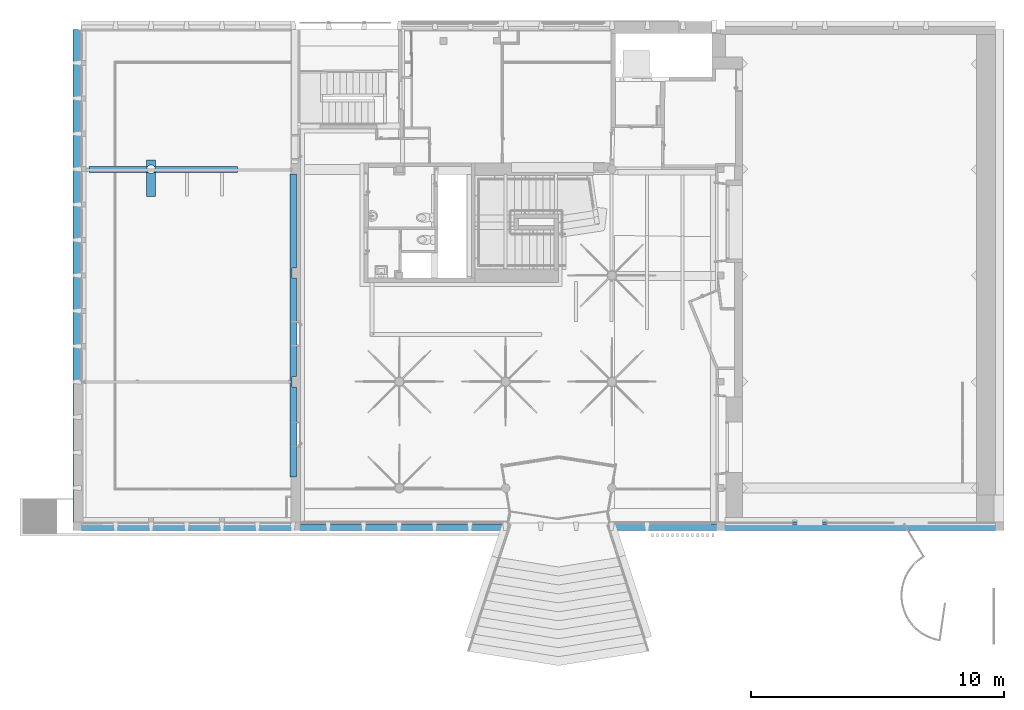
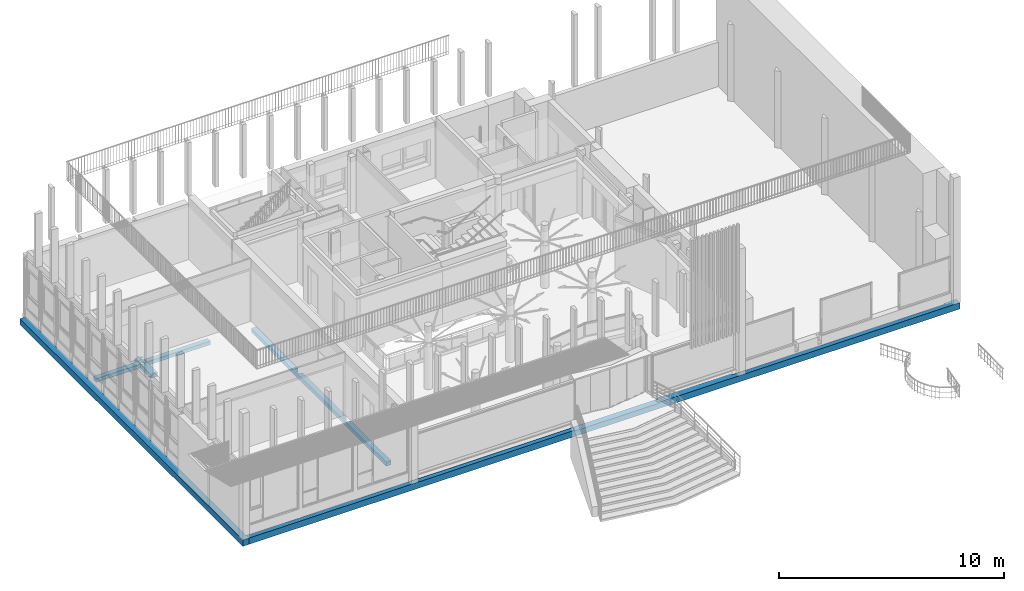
# One storey, part 25 of 65: 5 beams.
"""IFC4 building model written with IfcOpenShell, lengths in metres."""

from ifc_helpers import new_model, entity, si_unit, converted_unit, derived_unit, direction, frame, origin, place, context, subcontext, project, spatial, polygons, source, transform, mapped, material, type_object, type_shapes, element, save


model = new_model("IFC4")

# Units and contexts
model_context = context("Model", 3, precision=1e-05, world=origin(), true_north=direction((6.12303176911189e-17, 1.0)))
body_context = subcontext(model_context, "Body", "Model", "MODEL_VIEW")
ifc_project = project(units=[si_unit("LENGTHUNIT", "METRE"), si_unit("AREAUNIT", "SQUARE_METRE"), si_unit("VOLUMEUNIT", "CUBIC_METRE"), converted_unit("PLANEANGLEUNIT", "DEGREE", entity("IfcRatioMeasure", 0.0174532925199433), si_unit("PLANEANGLEUNIT", "RADIAN"), dimensions=[0, 0, 0, 0, 0, 0, 0]), si_unit("MASSUNIT", "GRAM", prefix="KILO"), derived_unit("MASSDENSITYUNIT", [(si_unit("MASSUNIT", "GRAM", prefix="KILO"), 1), (si_unit("LENGTHUNIT", "METRE"), -3)]), derived_unit("MOMENTOFINERTIAUNIT", [(si_unit("LENGTHUNIT", "METRE"), 4)]), si_unit("TIMEUNIT", "SECOND"), si_unit("FREQUENCYUNIT", "HERTZ"), si_unit("THERMODYNAMICTEMPERATUREUNIT", "DEGREE_CELSIUS"), derived_unit("THERMALTRANSMITTANCEUNIT", [(si_unit("MASSUNIT", "GRAM", prefix="KILO"), 1), (si_unit("THERMODYNAMICTEMPERATUREUNIT", "KELVIN"), -1), (si_unit("TIMEUNIT", "SECOND"), -3)]), derived_unit("VOLUMETRICFLOWRATEUNIT", [(si_unit("LENGTHUNIT", "METRE"), 3), (si_unit("TIMEUNIT", "SECOND"), -1)]), si_unit("ELECTRICCURRENTUNIT", "AMPERE"), si_unit("ELECTRICVOLTAGEUNIT", "VOLT"), si_unit("POWERUNIT", "WATT"), si_unit("FORCEUNIT", "NEWTON", prefix="KILO"), si_unit("ILLUMINANCEUNIT", "LUX"), si_unit("LUMINOUSFLUXUNIT", "LUMEN"), si_unit("LUMINOUSINTENSITYUNIT", "CANDELA"), derived_unit("USERDEFINED", [(si_unit("MASSUNIT", "GRAM", prefix="KILO"), -1), (si_unit("LENGTHUNIT", "METRE"), -2), (si_unit("TIMEUNIT", "SECOND"), 3), (si_unit("LUMINOUSFLUXUNIT", "LUMEN"), 1)]), derived_unit("LINEARVELOCITYUNIT", [(si_unit("LENGTHUNIT", "METRE"), 1), (si_unit("TIMEUNIT", "SECOND"), -1)]), si_unit("PRESSUREUNIT", "PASCAL"), derived_unit("USERDEFINED", [(si_unit("LENGTHUNIT", "METRE"), -2), (si_unit("MASSUNIT", "GRAM", prefix="KILO"), 1), (si_unit("TIMEUNIT", "SECOND"), -2)]), derived_unit("LINEARFORCEUNIT", [(si_unit("MASSUNIT", "GRAM", prefix="KILO"), 1), (si_unit("LENGTHUNIT", "METRE"), 1), (si_unit("TIMEUNIT", "SECOND"), -2), (si_unit("LENGTHUNIT", "METRE"), -1)]), derived_unit("PLANARFORCEUNIT", [(si_unit("MASSUNIT", "GRAM", prefix="KILO"), 1), (si_unit("LENGTHUNIT", "METRE"), 1), (si_unit("TIMEUNIT", "SECOND"), -2), (si_unit("LENGTHUNIT", "METRE"), -2)])], contexts=[model_context])

# Site, building, storey
site_placement = place(None, origin())
site = spatial("IfcSite", under=ifc_project, at=site_placement, Name="Default", CompositionType="ELEMENT")
building_placement = place(site_placement, origin())
building = spatial("IfcBuilding", under=site, at=building_placement, Name="HOTEL CONSULAIRE BOULOGNE SUR MER", CompositionType="ELEMENT")
storey_placement = place(building_placement, origin())
storey = spatial("IfcBuildingStorey", under=building, at=storey_placement, Name="Niveau 0", CompositionType="ELEMENT", Elevation=1.31981936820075e-13)

# Beams
ifc_material = material(Name="Béton - Béton coulé sur place", Category="Béton")
beam_type_1 = type_object("IfcBeamType", Name="Poutre rectangulaire - Béton:320x340", PredefinedType="BEAM", material=ifc_material)
shared_shape_1 = source(origin(), body_context, "Body", "Tessellation", [
    polygons([(0.320000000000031, 19.7994347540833, 0.0), (0.320000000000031, 19.7994347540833, 0.290000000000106), (0.320000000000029, 18.533767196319, 0.290000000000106), (0.320000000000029, 18.533767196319, 0.0), (3.24860138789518e-14, 19.7994347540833, 0.0), (0.278630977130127, 18.533767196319, 0.0), (0.278630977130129, 18.411467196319, 0.0), (0.320000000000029, 18.411467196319, 0.0), (0.320000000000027, 17.133767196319, 0.0), (0.278630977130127, 17.133767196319, 0.0), (0.278630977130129, 17.011467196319, 0.0), (0.320000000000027, 17.011467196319, 0.0), (0.320000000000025, 15.733767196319, 0.0), (0.278630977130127, 15.733767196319, 0.0), (0.278630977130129, 15.611467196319, 0.0), (0.320000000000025, 15.611467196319, 0.0), (0.320000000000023, 14.3337671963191, 0.0), (0.278630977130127, 14.333767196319, 0.0), (0.278630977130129, 14.211467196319, 0.0), (0.320000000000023, 14.211467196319, 0.0), (0.32000000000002, 12.9337671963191, 0.0), (0.278630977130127, 12.933767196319, 0.0), (0.278630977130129, 12.811467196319, 0.0), (0.32000000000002, 12.811467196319, 0.0), (0.320000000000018, 11.5337671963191, 0.0), (0.278630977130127, 11.5337671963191, 0.0), (0.278630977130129, 11.411467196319, 0.0), (0.320000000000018, 11.411467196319, 0.0), (0.320000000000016, 10.1337671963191, 0.0), (0.278630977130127, 10.1337671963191, 0.0), (0.278630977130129, 10.011467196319, 0.0), (0.320000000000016, 10.011467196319, 0.0), (0.320000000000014, 8.73376719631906, 0.0), (0.278630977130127, 8.73376719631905, 0.0), (0.278630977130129, 8.61146719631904, 0.0), (0.320000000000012, 8.61146719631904, 0.0), (0.320000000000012, 7.33376719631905, 0.0), (0.278630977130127, 7.33376719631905, 0.0), (0.278630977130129, 7.21146719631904, 0.0), (0.32000000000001, 7.21146719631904, 0.0), (0.320000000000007, 5.93376719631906, 0.0), (0.278630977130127, 5.93376719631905, 0.0), (0.278630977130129, 5.81146719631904, 0.0), (0.320000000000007, 5.81146719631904, 0.0), (0.320000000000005, 4.53376719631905, 0.0), (0.278630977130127, 4.53376719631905, 0.0), (0.278630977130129, 4.41146719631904, 0.0), (0.320000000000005, 4.41146719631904, 0.0), (0.320000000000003, 3.13376719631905, 0.0), (0.278630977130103, 3.13376719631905, 0.0), (0.278630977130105, 3.01146719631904, 0.0), (0.320000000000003, 3.01146719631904, 0.0), (0.320000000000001, 1.73376719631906, 0.0), (0.278630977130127, 1.73376719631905, 0.0), (0.278630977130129, 1.61146719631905, 0.0), (0.320000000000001, 1.61146719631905, 0.0), (0.319999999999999, 0.320000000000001, 0.0), (0.319999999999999, 0.0, 0.0), (0.0, 0.0, 0.0), (3.24860138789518e-14, 19.7994347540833, 0.34), (0.0, 0.0, 0.34), (0.308880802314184, 0.225999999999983, 0.34), (0.308880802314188, 2.97261719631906, 0.34), (0.308880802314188, 3.17261719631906, 0.34), (0.308880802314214, 18.3726171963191, 0.34), (0.308880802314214, 18.5726171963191, 0.34), (0.308880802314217, 19.7994347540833, 0.34), (0.319999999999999, 0.0, 0.34), (0.319999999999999, 0.225999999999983, 0.34), (0.308880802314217, 19.7994347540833, 0.290000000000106), (0.308880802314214, 18.533767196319, 0.290000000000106), (0.308880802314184, 0.225999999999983, 0.290000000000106), (0.308880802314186, 1.61146719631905, 0.290000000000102), (0.308880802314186, 1.73376719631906, 0.290000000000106), (0.308880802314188, 3.01146719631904, 0.290000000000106), (0.308880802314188, 3.13376719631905, 0.290000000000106), (0.308880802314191, 4.41146719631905, 0.290000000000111), (0.308880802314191, 4.53376719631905, 0.290000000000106), (0.308880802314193, 5.81146719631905, 0.290000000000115), (0.308880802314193, 5.93376719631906, 0.290000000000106), (0.308880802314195, 7.21146719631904, 0.29000000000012), (0.308880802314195, 7.33376719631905, 0.290000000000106), (0.308880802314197, 8.61146719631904, 0.290000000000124), (0.308880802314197, 8.73376719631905, 0.290000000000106), (0.308880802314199, 10.011467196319, 0.290000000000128), (0.308880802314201, 10.1337671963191, 0.290000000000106), (0.308880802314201, 11.411467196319, 0.290000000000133), (0.308880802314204, 11.5337671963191, 0.290000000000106), (0.308880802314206, 12.811467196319, 0.290000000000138), (0.308880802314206, 12.9337671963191, 0.290000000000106), (0.308880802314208, 14.211467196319, 0.290000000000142), (0.308880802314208, 14.3337671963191, 0.290000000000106), (0.30888080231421, 15.611467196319, 0.290000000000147), (0.30888080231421, 15.733767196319, 0.290000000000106), (0.308880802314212, 17.011467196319, 0.290000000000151), (0.308880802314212, 17.133767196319, 0.290000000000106), (0.308880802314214, 18.411467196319, 0.290000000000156), (0.319999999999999, 0.225999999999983, 0.290000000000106), (0.278630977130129, 15.611467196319, 0.290000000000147), (0.278630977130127, 15.733767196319, 0.290000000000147), (0.320000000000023, 15.733767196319, 0.290000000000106), (0.320000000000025, 15.611467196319, 0.290000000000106), (0.320000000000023, 14.3337671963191, 0.290000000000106), (0.278630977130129, 17.011467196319, 0.290000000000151), (0.278630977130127, 17.133767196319, 0.290000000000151), (0.320000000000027, 17.133767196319, 0.290000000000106), (0.320000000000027, 17.011467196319, 0.290000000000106), (0.278630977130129, 18.411467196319, 0.290000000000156), (0.278630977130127, 18.533767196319, 0.290000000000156), (0.320000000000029, 18.411467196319, 0.290000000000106), (0.278630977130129, 14.211467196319, 0.290000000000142), (0.278630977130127, 14.333767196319, 0.290000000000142), (0.320000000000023, 14.211467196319, 0.290000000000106), (0.32000000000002, 12.9337671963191, 0.290000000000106), (0.278630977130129, 12.811467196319, 0.290000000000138), (0.278630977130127, 12.933767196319, 0.290000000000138), (0.32000000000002, 12.811467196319, 0.290000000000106), (0.320000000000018, 11.5337671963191, 0.290000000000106), (0.278630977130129, 11.411467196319, 0.290000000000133), (0.278630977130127, 11.5337671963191, 0.290000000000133), (0.320000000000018, 11.411467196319, 0.290000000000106), (0.320000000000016, 10.1337671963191, 0.290000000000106), (0.278630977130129, 10.011467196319, 0.290000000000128), (0.278630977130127, 10.1337671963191, 0.290000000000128), (0.320000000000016, 10.011467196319, 0.290000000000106), (0.320000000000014, 8.73376719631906, 0.290000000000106), (0.278630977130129, 8.61146719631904, 0.290000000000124), (0.278630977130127, 8.73376719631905, 0.290000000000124), (0.320000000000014, 8.61146719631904, 0.290000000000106), (0.320000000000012, 7.33376719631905, 0.290000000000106), (0.278630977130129, 7.21146719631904, 0.29000000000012), (0.278630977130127, 7.33376719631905, 0.29000000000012), (0.320000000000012, 7.21146719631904, 0.290000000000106), (0.320000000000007, 5.93376719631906, 0.290000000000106), (0.278630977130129, 5.81146719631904, 0.290000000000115), (0.278630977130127, 5.93376719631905, 0.290000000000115), (0.32000000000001, 5.81146719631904, 0.290000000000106), (0.320000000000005, 4.53376719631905, 0.290000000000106), (0.278630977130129, 4.41146719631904, 0.290000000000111), (0.278630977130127, 4.53376719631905, 0.290000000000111), (0.320000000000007, 4.41146719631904, 0.290000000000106), (0.320000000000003, 3.13376719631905, 0.290000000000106), (0.278630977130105, 3.01146719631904, 0.290000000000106), (0.278630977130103, 3.13376719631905, 0.290000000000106), (0.320000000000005, 3.01146719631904, 0.290000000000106), (0.320000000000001, 1.73376719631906, 0.290000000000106), (0.278630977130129, 1.61146719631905, 0.290000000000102), (0.278630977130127, 1.73376719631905, 0.290000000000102), (0.320000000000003, 1.61146719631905, 0.290000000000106), (0.319999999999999, 0.320000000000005, 0.290000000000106)], [[[1, 2, 3, 4]], [[75, 76, 77, 78, 79, 80, 81, 82, 83, 84, 85, 86, 87, 88, 89, 90, 91, 92, 93, 94, 95, 96, 97, 71, 70, 67, 66, 65, 64, 63, 62, 72, 73, 74]], [[14, 100, 99, 15]], [[16, 102, 103, 17]], [[11, 10, 105, 104]], [[12, 107, 101, 13]], [[7, 6, 109, 108]], [[8, 110, 106, 9]], [[19, 18, 112, 111]], [[20, 113, 114, 21]], [[23, 22, 116, 115]], [[24, 117, 118, 25]], [[26, 120, 119, 27]], [[28, 121, 122, 29]], [[31, 30, 124, 123]], [[32, 125, 126, 33]], [[35, 34, 128, 127]], [[36, 129, 130, 37]], [[39, 38, 132, 131]], [[40, 133, 134, 41]], [[42, 136, 135, 43]], [[44, 137, 138, 45]], [[46, 140, 139, 47]], [[48, 141, 142, 49]], [[50, 144, 143, 51]], [[52, 145, 146, 53]], [[55, 54, 148, 147]], [[149, 150, 98, 69, 68, 58, 57, 56]], [[1, 4, 6, 7, 8, 9, 10, 11, 12, 13, 14, 15, 16, 17, 18, 19, 20, 21, 22, 23, 24, 25, 26, 27, 28, 29, 30, 31, 32, 33, 34, 35, 36, 37, 38, 39, 40, 41, 42, 43, 44, 45, 46, 47, 48, 49, 50, 51, 52, 53, 54, 55, 56, 57, 58, 59, 5]], [[100, 94, 93, 99]], [[105, 96, 95, 104]], [[109, 71, 97, 108]], [[112, 92, 91, 111]], [[116, 90, 89, 115]], [[120, 88, 87, 119]], [[123, 124, 86, 85]], [[127, 128, 84, 83]], [[132, 82, 81, 131]], [[136, 80, 79, 135]], [[140, 78, 77, 139]], [[144, 76, 75, 143]], [[148, 74, 73, 147]], [[60, 5, 59, 61]], [[60, 61, 68, 69, 62, 63, 64, 65, 66, 67]], [[3, 2, 70, 71]], [[102, 93, 92, 103]], [[107, 95, 94, 101]], [[110, 97, 96, 106]], [[113, 91, 90, 114]], [[117, 89, 88, 118]], [[121, 87, 86, 122]], [[125, 85, 84, 126]], [[130, 129, 83, 82]], [[134, 133, 81, 80]], [[138, 137, 79, 78]], [[141, 77, 76, 142]], [[146, 145, 75, 74]], [[150, 149, 73, 72, 98]], [[60, 67, 70, 2, 1, 5]], [[62, 69, 98, 72]], [[16, 15, 99, 93, 102]], [[12, 11, 104, 95, 107]], [[8, 7, 108, 97, 110]], [[20, 19, 111, 91, 113]], [[24, 23, 115, 89, 117]], [[28, 27, 119, 87, 121]], [[32, 31, 123, 85, 125]], [[36, 35, 127, 83, 129]], [[40, 39, 131, 81, 133]], [[44, 43, 135, 79, 137]], [[48, 47, 139, 77, 141]], [[52, 51, 143, 75, 145]], [[56, 55, 147, 73, 149]], [[68, 61, 59, 58]], [[14, 13, 101, 94, 100]], [[10, 9, 106, 96, 105]], [[6, 4, 3, 71, 109]], [[18, 17, 103, 92, 112]], [[22, 21, 114, 90, 116]], [[26, 25, 118, 88, 120]], [[30, 29, 122, 86, 124]], [[34, 33, 126, 84, 128]], [[38, 37, 130, 82, 132]], [[42, 41, 134, 80, 136]], [[46, 45, 138, 78, 140]], [[50, 49, 142, 76, 144]], [[54, 53, 146, 74, 148]]], closed=True),
])
type_shapes(beam_type_1, [shared_shape_1])
beam_1_placement = place(storey_placement, frame((-14.1239806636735, -29.8840671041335, -0.560000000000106)))
element("IfcBeam", 1, at=beam_1_placement, inside=storey, type_object=beam_type_1, material=ifc_material, Name="Poutre rectangulaire - Béton:320x340", ObjectType="Poutre rectangulaire - Béton:320x340", PredefinedType="BEAM", context=body_context, shape_type="MappedRepresentation", body=[
    mapped(shared_shape_1, transform((0.0, 0.0, 0.0), scale=1.0)),
])
beam_type_2 = type_object("IfcBeamType", Name="Poutre rectangulaire - Béton:320x340", PredefinedType="BEAM", material=ifc_material)
shared_shape_2 = source(origin(), body_context, "Body", "Tessellation", [
    polygons([(36.4626189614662, -4.33146851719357e-15, 6.76791955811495e-17), (36.4626189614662, -4.33146851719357e-15, 0.34), (21.1962349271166, 8.66293703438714e-15, 0.34), (21.0491185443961, 8.66293703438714e-15, 0.34), (21.0491185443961, 8.66293703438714e-15, 0.290000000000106), (20.9020021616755, 8.66293703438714e-15, 0.290000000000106), (16.8502503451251, 1.29944055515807e-14, 0.290000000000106), (16.7027484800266, 1.29944055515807e-14, 0.290000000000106), (16.7027484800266, 1.29944055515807e-14, 0.34), (16.5552466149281, 1.29944055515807e-14, 0.34), (4.33146851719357e-15, 2.59888111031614e-14, 0.34), (0.0, 2.59888111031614e-14, 6.76791955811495e-17), (16.5552466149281, 1.29944055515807e-14, 6.76791955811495e-17), (16.8502503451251, 1.29944055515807e-14, 6.76791955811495e-17), (20.9020021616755, 8.66293703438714e-15, 6.76791955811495e-17), (21.1962349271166, 8.66293703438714e-15, 6.76791955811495e-17), (36.4626189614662, 0.319999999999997, 6.76791955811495e-17), (4.33146851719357e-15, 0.320000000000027, 6.76791955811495e-17), (2.70141068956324, 0.320000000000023, 6.76791955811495e-17), (2.70141068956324, 0.270776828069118, 6.76791955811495e-17), (2.82371068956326, 0.270776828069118, 6.76791955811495e-17), (2.82371068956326, 0.320000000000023, 6.76791955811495e-17), (8.55929127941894, 0.320000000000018, 6.76791955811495e-17), (16.6613983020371, 0.320000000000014, 6.76791955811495e-17), (16.6951267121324, 0.320000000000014, 6.76791955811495e-17), (21.0761178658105, 0.32000000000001, 6.76791955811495e-17), (24.886207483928, 0.320000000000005, 6.76791955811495e-17), (36.1426189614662, 0.319999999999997, 6.76791955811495e-17), (36.3440411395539, 0.319999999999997, 6.76791955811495e-17), (4.33146851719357e-15, 0.320000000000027, 0.290000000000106), (2.70141068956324, 0.320000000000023, 0.290000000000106), (4.33146851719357e-15, 0.226000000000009, 0.34), (16.7777181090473, 0.226000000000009, 0.34), (16.6302162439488, 0.226000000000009, 0.34), (2.16573425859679e-15, 0.226000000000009, 0.290000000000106), (16.7777181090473, 0.226000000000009, 0.290000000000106), (20.9761494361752, 0.226000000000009, 0.290000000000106), (21.0761178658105, 0.226000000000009, 0.290000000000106), (21.0761178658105, 0.320000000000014, 0.290000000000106), (16.6951267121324, 0.320000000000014, 0.290000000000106), (16.6613983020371, 0.320000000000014, 0.290000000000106), (8.55929127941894, 0.320000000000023, 0.290000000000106), (2.82371068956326, 0.320000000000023, 0.290000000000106), (2.82371068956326, 0.270776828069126, 0.290000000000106), (2.70141068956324, 0.270776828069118, 0.290000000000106), (35.8369166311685, 0.226000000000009, 0.290000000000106), (24.886207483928, 0.226000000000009, 0.290000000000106), (24.886207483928, 0.226000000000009, 0.34), (35.8369166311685, 0.226000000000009, 0.34), (35.8369166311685, 0.319999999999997, 0.290000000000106), (35.8369166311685, 0.319999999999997, 0.34), (36.4626189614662, 0.319999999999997, 0.34), (24.886207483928, 0.320000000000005, 0.290000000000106), (24.886207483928, 0.320000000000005, 0.34), (24.886207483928, 0.266000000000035, 0.34), (21.0761178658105, 0.226000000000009, 0.34), (21.0761178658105, 0.266000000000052, 0.34), (21.0761178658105, 0.307968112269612, 0.34), (21.0761178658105, 0.32000000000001, 0.34), (20.9761494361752, 0.226000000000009, 0.34), (36.1426189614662, 0.319999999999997, 0.34)], [[[16, 1, 2, 3, 4, 5, 6, 7, 8, 9, 10, 11, 12, 13, 14, 15]], [[26, 27, 28, 29, 17, 1, 16, 15, 14, 13, 12, 18, 19, 20, 21, 22, 23, 24, 25]], [[31, 19, 18, 30]], [[49, 46, 47, 48]], [[56, 38, 37, 60]], [[34, 33, 36, 35, 32]], [[21, 20, 45, 44]], [[27, 26, 25, 24, 23, 22, 43, 42, 41, 40, 39, 59, 54, 53, 50, 51, 61, 52, 17, 29, 28]], [[9, 33, 34, 32, 11, 10]], [[31, 30, 35, 36, 8, 7, 6, 5, 37, 38, 39, 40, 41, 42, 43, 44, 45]], [[46, 50, 53, 47]], [[51, 49, 48, 55, 54, 59, 58, 57, 56, 60, 4, 3, 2, 52, 61]], [[51, 50, 46, 49]], [[30, 18, 12, 11, 32, 35]], [[57, 58, 59, 39, 38, 56]], [[22, 21, 44, 43]], [[52, 2, 1, 17]], [[55, 48, 47, 53, 54]], [[20, 19, 31, 45]], [[4, 60, 37, 5]], [[9, 8, 36, 33]]], closed=True),
])
type_shapes(beam_type_2, [shared_shape_2])
beam_2_placement = place(storey_placement, frame((-13.8039806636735, -29.8840671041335, -0.560000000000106)))
element("IfcBeam", 2, at=beam_2_placement, inside=storey, type_object=beam_type_2, material=ifc_material, Name="Poutre rectangulaire - Béton:320x340", ObjectType="Poutre rectangulaire - Béton:320x340", PredefinedType="BEAM", context=body_context, shape_type="MappedRepresentation", body=[
    mapped(shared_shape_2, transform((0.0, 0.0, 0.0), scale=1.0)),
])
beam_type_3 = type_object("IfcBeamType", Name="Poutre rectangulaire - Béton:250X200.", PredefinedType="BEAM", material=ifc_material)
shared_shape_3 = source(origin(), body_context, "Body", "Tessellation", [
    polygons([(5.8654, 0.00158750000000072, 0.2), (5.8654, 0.00158750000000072, 1.35358391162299e-16), (5.8654, 0.2515875, 1.35358391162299e-16), (5.8654, 0.2515875, 0.2), (5.85288055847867, 0.00158750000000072, 0.2), (5.31615028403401, 0.00158750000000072, 0.2), (5.19615028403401, 0.00158750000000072, 0.2), (3.91615028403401, 0.00158750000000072, 0.2), (3.79615028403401, 0.00158750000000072, 0.2), (2.61704590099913, 0.00158750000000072, 0.2), (2.54917199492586, 0.00158750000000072, 0.2), (2.54917199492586, 0.00158750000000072, 2.03037586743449e-16), (2.61704590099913, 0.00158750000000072, 2.03037586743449e-16), (3.79615028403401, 0.00158750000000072, 2.03037586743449e-16), (3.91615028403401, 0.00158750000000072, 2.03037586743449e-16), (5.19615028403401, 0.00158750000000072, 1.35358391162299e-16), (5.31615028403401, 0.00158750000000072, 1.35358391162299e-16), (5.85288055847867, 0.00158750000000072, 1.35358391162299e-16), (2.57563439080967, 0.0284489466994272, 2.03037586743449e-16), (2.59552462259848, 0.0604829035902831, 2.03037586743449e-16), (2.60786414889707, 0.0961133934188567, 2.03037586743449e-16), (2.61204590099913, 0.133587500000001, 2.03037586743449e-16), (2.60651726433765, 0.176589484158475, 2.03037586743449e-16), (2.59029095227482, 0.216794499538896, 2.03037586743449e-16), (2.56442236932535, 0.2515875, 2.03037586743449e-16), (2.61704590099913, 0.2515875, 2.03037586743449e-16), (5.85288055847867, 0.2515875, 1.35358391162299e-16), (2.56442236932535, 0.2515875, 0.2), (2.61704590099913, 0.2515875, 0.2), (5.85288055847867, 0.2515875, 0.2), (2.59029095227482, 0.216794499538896, 0.2), (2.60651726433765, 0.176589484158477, 0.2), (2.61204590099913, 0.133587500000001, 0.2), (2.60786414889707, 0.0961133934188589, 0.2), (2.59552462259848, 0.0604829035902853, 0.2), (2.57563439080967, 0.0284489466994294, 0.2)], [[[4, 1, 2, 3]], [[7, 8, 9, 10, 11, 12, 13, 14, 15, 16, 17, 18, 2, 1, 5, 6]], [[16, 15, 14, 13, 12, 19, 20, 21, 22, 23, 24, 25, 26, 27, 3, 2, 18, 17]], [[30, 4, 3, 27, 26, 25, 28, 29]], [[10, 9, 8, 7, 6, 5, 1, 4, 30, 29, 28, 31, 32, 33, 34, 35, 36, 11]], [[32, 23, 22, 33]], [[32, 31, 24, 23]], [[31, 28, 25, 24]], [[11, 36, 19, 12]], [[20, 19, 36, 35]], [[34, 33, 22, 21]], [[35, 34, 21, 20]]], closed=True),
    polygons([(0.0, 0.00158750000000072, 0.2), (0.0, 0.2515875, 0.2), (0.0, 0.2515875, 2.70716782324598e-16), (0.0, 0.00158750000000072, 2.70716782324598e-16), (2.27204590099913, 0.133587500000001, 0.0), (2.27204590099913, 0.133587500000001, 0.2), (2.27622765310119, 0.096113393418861, 0.2), (2.28856717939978, 0.0604829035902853, 0.2), (2.30845741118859, 0.0284489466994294, 0.2), (2.3349198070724, 0.00158750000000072, 0.2), (2.3349198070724, 0.00158750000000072, 0.0), (2.30845741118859, 0.0284489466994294, 0.0), (2.28856717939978, 0.0604829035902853, 0.0), (2.27622765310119, 0.096113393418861, 0.0), (2.26704590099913, 0.00158750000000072, 2.03037586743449e-16), (2.26704590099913, 0.00158750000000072, 0.2), (2.26704590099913, 0.2515875, 2.03037586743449e-16), (2.31966943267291, 0.2515875, 2.03037586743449e-16), (2.29380084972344, 0.216794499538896, 2.03037586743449e-16), (2.27757453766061, 0.176589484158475, 2.03037586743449e-16), (2.26704590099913, 0.2515875, 0.2), (2.31966943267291, 0.2515875, 0.2), (2.27757453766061, 0.176589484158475, 0.2), (2.29380084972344, 0.216794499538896, 0.2)], [[[3, 4, 1, 2]], [[6, 7, 14, 5]], [[13, 14, 7, 8]], [[9, 10, 11, 12]], [[8, 9, 12, 13]], [[15, 11, 10, 16, 1, 4]], [[15, 4, 3, 17, 18, 19, 20, 5, 14, 13, 12, 11]], [[21, 22, 18, 17, 3, 2]], [[21, 2, 1, 16, 10, 9, 8, 7, 6, 23, 24, 22]], [[22, 24, 19, 18]], [[24, 23, 20, 19]], [[23, 6, 5, 20]]], closed=True),
])
type_shapes(beam_type_3, [shared_shape_3])
beam_3_placement = place(storey_placement, frame((-13.4878691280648, -15.7494973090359, -0.470000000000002)))
element("IfcBeam", 3, at=beam_3_placement, inside=storey, type_object=beam_type_3, material=ifc_material, Name="Poutre rectangulaire - Béton:250X200.", ObjectType="Poutre rectangulaire - Béton:250X200.", PredefinedType="BEAM", context=body_context, shape_type="MappedRepresentation", body=[
    mapped(shared_shape_3, transform((0.0, 0.0, 0.0), scale=1.0)),
])
beam_type_4 = type_object("IfcBeamType", Name="Poutre rectangulaire - Béton:350X200.", PredefinedType="BEAM", material=ifc_material)
shared_shape_4 = source(origin(), body_context, "Body", "Tessellation", [
    polygons([(0.350000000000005, 1.4454, 0.2), (0.350000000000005, 1.4454, 1.35358391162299e-16), (4.33146851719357e-15, 1.4454, 1.35358391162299e-16), (4.33146851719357e-15, 1.4454, 0.2), (0.350000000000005, 1.18799516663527, 0.2), (0.350000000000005, 1.18799516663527, 1.35358391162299e-16), (0.297376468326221, 1.18799516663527, 2.03037586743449e-16), (0.267293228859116, 1.21276056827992, 1.35358391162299e-16), (0.232371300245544, 1.23002183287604, 1.35358391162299e-16), (0.194443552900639, 1.23887958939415, 1.35358391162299e-16), (0.155500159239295, 1.23887309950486, 1.35358391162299e-16), (0.117582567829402, 1.2300052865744, 1.35358391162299e-16), (0.082677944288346, 1.2127419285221, 1.35358391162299e-16), (0.0526235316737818, 1.18799516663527, 2.03037586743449e-16), (4.33146851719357e-15, 1.18799516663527, 2.03037586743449e-16), (4.33146851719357e-15, 1.18799516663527, 0.2), (0.0526235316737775, 1.18799516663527, 0.2), (0.0827067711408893, 1.21276056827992, 0.2), (0.117628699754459, 1.23002183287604, 0.2), (0.155556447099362, 1.23887958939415, 0.2), (0.194499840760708, 1.23887309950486, 0.2), (0.232417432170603, 1.2300052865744, 0.2), (0.267322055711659, 1.21274192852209, 0.2), (0.297376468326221, 1.18799516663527, 0.2)], [[[4, 1, 2, 3]], [[2, 1, 5, 6]], [[2, 6, 7, 8, 9, 10, 11, 12, 13, 14, 15, 3]], [[4, 3, 15, 16]], [[4, 16, 17, 18, 19, 20, 21, 22, 23, 24, 5, 1]], [[8, 7, 23]], [[9, 8, 22]], [[10, 9, 21]], [[7, 24, 23]], [[9, 22, 21]], [[22, 8, 23]], [[21, 20, 10]], [[19, 12, 11]], [[17, 14, 13]], [[18, 13, 12]], [[19, 11, 20]], [[12, 19, 18]], [[13, 18, 17]], [[10, 20, 11]], [[15, 14, 17, 16]], [[7, 6, 5, 24]]], closed=True),
    polygons([(0.350000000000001, 0.0, 0.2), (0.0, 0.0, 0.2), (0.0, 0.0, 4.06075173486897e-16), (0.350000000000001, 0.0, 4.06075173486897e-16), (0.282126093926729, 0.937995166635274, 0.0), (0.249606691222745, 0.917240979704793, 0.0), (0.213286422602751, 0.904362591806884, 0.0), (0.17499710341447, 0.899995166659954, 0.0), (0.136704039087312, 0.904364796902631, 0.0), (0.100378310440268, 0.917248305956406, 0.0), (0.0678739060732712, 0.937995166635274, 0.0), (0.0678739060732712, 0.937995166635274, 0.2), (0.100393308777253, 0.917240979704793, 0.2), (0.136713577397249, 0.904362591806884, 0.2), (0.175002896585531, 0.899995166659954, 0.2), (0.213295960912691, 0.904364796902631, 0.2), (0.249621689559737, 0.917248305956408, 0.2), (0.282126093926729, 0.937995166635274, 0.2), (0.350000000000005, 0.937995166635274, 0.2), (0.350000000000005, 0.937995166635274, 2.03037586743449e-16), (4.33146851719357e-15, 0.937995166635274, 2.03037586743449e-16), (4.33146851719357e-15, 0.937995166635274, 0.2)], [[[3, 4, 1, 2]], [[13, 9, 10]], [[12, 10, 11]], [[13, 10, 12]], [[15, 8, 14]], [[9, 13, 14]], [[9, 14, 8]], [[17, 5, 6]], [[16, 6, 7]], [[16, 7, 15]], [[17, 6, 16]], [[17, 18, 5]], [[8, 15, 7]], [[18, 19, 20, 5]], [[22, 12, 11, 21]], [[20, 19, 1, 4]], [[21, 11, 10, 9, 8, 7, 6, 5, 20, 4, 3]], [[22, 21, 3, 2]], [[19, 18, 17, 16, 15, 14, 13, 12, 22, 2, 1]]], closed=True),
])
type_shapes(beam_type_4, [shared_shape_4])
beam_4_placement = place(storey_placement, frame((-11.2208232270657, -16.6859049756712, -0.470000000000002)))
element("IfcBeam", 4, at=beam_4_placement, inside=storey, type_object=beam_type_4, material=ifc_material, Name="Poutre rectangulaire - Béton:350X200.", ObjectType="Poutre rectangulaire - Béton:350X200.", PredefinedType="BEAM", context=body_context, shape_type="MappedRepresentation", body=[
    mapped(shared_shape_4, transform((0.0, 0.0, 0.0), scale=1.0)),
])
beam_type_5 = type_object("IfcBeamType", Name="Poutre rectangulaire - Béton:250x220", PredefinedType="BEAM", material=ifc_material)
shared_shape_5 = source(origin(), body_context, "Body", "Tessellation", [
    polygons([(0.0, 0.0, 0.22), (0.0, 0.0, 0.0), (0.0598187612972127, 0.0, 0.0), (0.249999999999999, 0.0, 0.0), (0.249999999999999, 0.0, 0.22), (0.0598187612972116, 0.0, 0.22), (1.29944055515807e-14, 11.9927, 0.22), (0.0790000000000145, 11.9927, 0.22), (0.250000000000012, 11.9927, 0.22), (0.250000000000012, 11.9927, 0.0), (0.0790000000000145, 11.9927, 0.0), (1.29944055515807e-14, 11.9927, 0.0), (4.33146851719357e-15, 4.10338579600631, 0.22), (8.66293703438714e-15, 7.87305568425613, 0.22), (1.19115384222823e-14, 10.9633857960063, 0.22), (1.19115384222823e-14, 11.1133857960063, 0.22), (1.19115384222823e-14, 11.1133857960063, 0.0), (1.19115384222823e-14, 10.9633857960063, 0.0), (8.66293703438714e-15, 7.87305568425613, 0.0), (4.33146851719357e-15, 4.1033857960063, 0.0), (0.250000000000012, 11.8411508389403, 0.0), (0.250000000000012, 11.7711508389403, 0.0), (0.250000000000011, 10.4888313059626, 0.0), (0.25000000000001, 10.3888313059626, 0.0), (0.250000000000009, 8.44665318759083, 0.0), (0.250000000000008, 8.36665318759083, 0.0), (0.250000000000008, 8.26573871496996, 0.0), (0.079000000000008, 8.26573871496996, 0.0), (0.079000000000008, 7.86573871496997, 0.0), (0.250000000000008, 7.86573871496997, 0.0), (0.250000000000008, 7.69305568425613, 0.0), (0.250000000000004, 3.97206023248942, 0.0), (0.0790000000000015, 3.97206023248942, 0.0), (0.0790000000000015, 3.57206023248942, 0.0), (0.250000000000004, 3.57206023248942, 0.0), (0.249999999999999, 0.0126962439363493, 0.0), (0.250000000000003, 3.57206023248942, 0.22), (0.249999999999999, 0.0126962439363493, 0.22), (0.0790000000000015, 3.57206023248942, 0.22), (0.0790000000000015, 3.97206023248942, 0.22), (0.250000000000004, 3.97206023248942, 0.22), (0.250000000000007, 7.69305568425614, 0.22), (0.250000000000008, 7.86573871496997, 0.22), (0.079000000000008, 7.86573871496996, 0.22), (0.079000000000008, 8.26573871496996, 0.22), (0.250000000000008, 8.26573871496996, 0.22), (0.250000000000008, 8.36665318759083, 0.22), (0.250000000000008, 8.44665318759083, 0.22), (0.25000000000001, 10.3888313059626, 0.22), (0.25000000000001, 10.4888313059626, 0.22), (0.250000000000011, 11.7711508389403, 0.22), (0.250000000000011, 11.8411508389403, 0.22)], [[[6, 1, 2, 3, 4, 5]], [[33, 32, 41, 40]], [[28, 27, 46, 45]], [[11, 12, 7, 8, 9, 10]], [[35, 34, 39, 37]], [[30, 29, 44, 43]], [[13, 14, 15, 16, 7, 12, 17, 18, 19, 20, 2, 1]], [[2, 20, 19, 18, 17, 12, 11, 10, 21, 22, 23, 24, 25, 26, 27, 28, 29, 30, 31, 32, 33, 34, 35, 36, 4, 3]], [[5, 4, 36, 35, 37, 38]], [[34, 33, 40, 39]], [[41, 32, 31, 30, 43, 42]], [[29, 28, 45, 44]], [[47, 46, 27, 26, 25, 24, 23, 22, 21, 10, 9, 52, 51, 50, 49, 48]], [[38, 37, 39, 40, 41, 42, 43, 44, 45, 46, 47, 48, 49, 50, 51, 52, 9, 8, 7, 16, 15, 14, 13, 1, 6, 5]]], closed=True),
])
type_shapes(beam_type_5, [shared_shape_5])
beam_5_placement = place(storey_placement, frame((-5.55450814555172, -27.7879700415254, -0.490000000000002)))
element("IfcBeam", 5, at=beam_5_placement, inside=storey, type_object=beam_type_5, material=ifc_material, Name="Poutre rectangulaire - Béton:250x220", ObjectType="Poutre rectangulaire - Béton:250x220", PredefinedType="BEAM", context=body_context, shape_type="MappedRepresentation", body=[
    mapped(shared_shape_5, transform((0.0, 0.0, 0.0), scale=1.0)),
])

save(model, "model.ifc")
